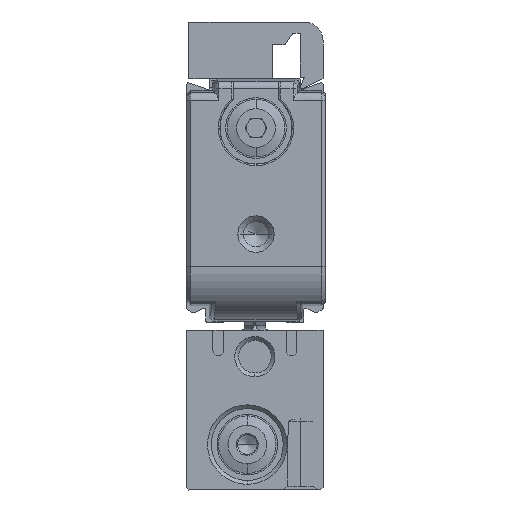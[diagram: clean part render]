
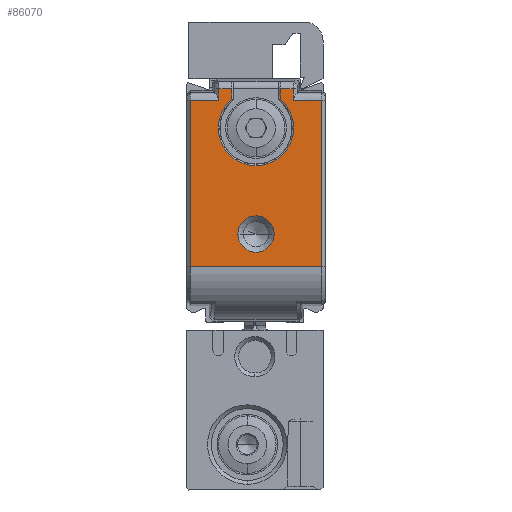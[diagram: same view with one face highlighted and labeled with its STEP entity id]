
A CAD part, left-side view. The second image highlights one B-rep face of the part: STEP entity #86070.
In plain terms, the highlighted planar face has unit normal (-1, 0, 0) as drawn and (0, 0, -1) by its records, which use the part's own axes.
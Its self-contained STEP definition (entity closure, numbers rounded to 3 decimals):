
#68520=CARTESIAN_POINT('',(31.077,22.24,-511.));
#68530=VERTEX_POINT('',#68520);
#68780=CARTESIAN_POINT('',(31.077,35.9,-511.));
#68790=DIRECTION('',(0.,-1.,0.));
#68800=VECTOR('',#68790,1.);
#68810=LINE('',#68780,#68800);
#68820=CARTESIAN_POINT('',(31.077,23.95,-511.));
#68830=VERTEX_POINT('',#68820);
#68840=EDGE_CURVE('',#68830,#68530,#68810,.T.);
#72660=CARTESIAN_POINT('',(7.619,35.8,-511.));
#72670=VERTEX_POINT('',#72660);
#73040=CARTESIAN_POINT('',(29.577,35.8,-511.));
#73050=VERTEX_POINT('',#73040);
#73170=CARTESIAN_POINT('',(18.598,35.8,-511.));
#73180=DIRECTION('',(1.,0.,0.));
#73190=VECTOR('',#73180,1.);
#73200=LINE('',#73170,#73190);
#73210=EDGE_CURVE('',#72670,#73050,#73200,.T.);
#80510=CARTESIAN_POINT('',(29.577,22.24,-511.));
#80520=VERTEX_POINT('',#80510);
#80550=CARTESIAN_POINT('',(29.577,35.9,-511.));
#80560=DIRECTION('',(0.,1.,0.));
#80570=VECTOR('',#80560,1.);
#80580=LINE('',#80550,#80570);
#80590=CARTESIAN_POINT('',(29.577,18.5,-511.));
#80600=VERTEX_POINT('',#80590);
#80610=EDGE_CURVE('',#80600,#80520,#80580,.T.);
#80960=CARTESIAN_POINT('',(29.077,22.24,-511.));
#80970=CARTESIAN_POINT('',(29.494,22.24,-511.));
#80980=CARTESIAN_POINT('',(29.91,22.24,-511.));
#80990=CARTESIAN_POINT('',(30.577,22.24,-511.));
#81000=CARTESIAN_POINT('',(30.827,22.24,-511.));
#81010=CARTESIAN_POINT('',(31.077,22.24,-511.));
#81020=B_SPLINE_CURVE_WITH_KNOTS('',3,(#80960,#80970,#80980,#80990,
#81000,#81010),.UNSPECIFIED.,.F.,.F.,(4,2,4),(38.213,
39.463,40.213),.UNSPECIFIED.);
#81030=EDGE_CURVE('',#80520,#68530,#81020,.T.);
#84900=CARTESIAN_POINT('',(7.619,18.5,
-511.));
#84910=VERTEX_POINT('',#84900);
#84940=CARTESIAN_POINT('',(7.619,35.9,-511.));
#84950=DIRECTION('',(0.,-1.,0.));
#84960=VECTOR('',#84950,1.);
#84970=LINE('',#84940,#84960);
#84980=EDGE_CURVE('',#72670,#84910,#84970,.T.);
#85280=CARTESIAN_POINT('',(16.65,27.15,-511.));
#85290=DIRECTION('',(0.,0.,1.));
#85300=DIRECTION('',(0.,1.,0.));
#85310=AXIS2_PLACEMENT_3D('',#85280,#85290,#85300);
#85320=PLANE('',#85310);
#85330=CARTESIAN_POINT('',(11.9,27.15,-511.));
#85340=DIRECTION('',(0.,0.,1.));
#85350=DIRECTION('',(0.,-1.,0.));
#85360=AXIS2_PLACEMENT_3D('',#85330,#85340,#85350);
#85370=CIRCLE('',#85360,2.4);
#85380=CARTESIAN_POINT('',(11.9,29.55,-511.));
#85390=VERTEX_POINT('',#85380);
#85400=CARTESIAN_POINT('',(11.9,24.75,-511.));
#85410=VERTEX_POINT('',#85400);
#85420=EDGE_CURVE('',#85390,#85410,#85370,.T.);
#85430=ORIENTED_EDGE('',*,*,#85420,.T.);
#85440=EDGE_CURVE('',#85410,#85390,#85370,.T.);
#85450=ORIENTED_EDGE('',*,*,#85440,.T.);
#85460=EDGE_LOOP('',(#85450,#85430));
#85470=FACE_BOUND('',#85460,.T.);
#85480=ORIENTED_EDGE('',*,*,#80610,.F.);
#85490=ORIENTED_EDGE('',*,*,#81030,.F.);
#85500=ORIENTED_EDGE('',*,*,#68840,.T.);
#85510=CARTESIAN_POINT('',(0.15,23.95,-511.));
#85520=DIRECTION('',(-1.,0.,0.));
#85530=VECTOR('',#85520,1.);
#85540=LINE('',#85510,#85530);
#85550=CARTESIAN_POINT('',(29.709,23.95,-511.));
#85560=VERTEX_POINT('',#85550);
#85570=EDGE_CURVE('',#68830,#85560,#85540,.T.);
#85580=ORIENTED_EDGE('',*,*,#85570,.F.);
#85590=CARTESIAN_POINT('',(25.9,27.15,-511.));
#85600=DIRECTION('',(0.,0.,-1.));
#85610=DIRECTION('',(0.,1.,0.));
#85620=AXIS2_PLACEMENT_3D('',#85590,#85600,#85610);
#85630=CIRCLE('',#85620,4.974);
#85640=CARTESIAN_POINT('',(29.709,30.35,-511.));
#85650=VERTEX_POINT('',#85640);
#85660=EDGE_CURVE('',#85560,#85650,#85630,.T.);
#85670=ORIENTED_EDGE('',*,*,#85660,.F.);
#85680=CARTESIAN_POINT('',(0.15,30.35,-511.));
#85690=DIRECTION('',(1.,0.,0.));
#85700=VECTOR('',#85690,1.);
#85710=LINE('',#85680,#85700);
#85720=CARTESIAN_POINT('',(31.077,30.35,-511.));
#85730=VERTEX_POINT('',#85720);
#85740=EDGE_CURVE('',#85650,#85730,#85710,.T.);
#85750=ORIENTED_EDGE('',*,*,#85740,.F.);
#85760=CARTESIAN_POINT('',(31.077,32.06,-511.));
#85770=VERTEX_POINT('',#85760);
#85780=EDGE_CURVE('',#85770,#85730,#68810,.T.);
#85790=ORIENTED_EDGE('',*,*,#85780,.T.);
#85800=CARTESIAN_POINT('',(29.077,32.06,-511.));
#85810=CARTESIAN_POINT('',(29.494,32.06,-511.));
#85820=CARTESIAN_POINT('',(29.91,32.06,-511.));
#85830=CARTESIAN_POINT('',(30.577,32.06,-511.));
#85840=CARTESIAN_POINT('',(30.827,32.06,-511.));
#85850=CARTESIAN_POINT('',(31.077,32.06,-511.));
#85860=B_SPLINE_CURVE_WITH_KNOTS('',3,(#85800,#85810,#85820,#85830,
#85840,#85850),.UNSPECIFIED.,.F.,.F.,(4,2,4),(38.213,
39.463,40.213),.UNSPECIFIED.);
#85870=CARTESIAN_POINT('',(29.577,32.06,-511.));
#85880=VERTEX_POINT('',#85870);
#85890=EDGE_CURVE('',#85880,#85770,#85860,.T.);
#85900=ORIENTED_EDGE('',*,*,#85890,.T.);
#85910=CARTESIAN_POINT('',(29.577,35.9,-511.));
#85920=DIRECTION('',(0.,1.,0.));
#85930=VECTOR('',#85920,1.);
#85940=LINE('',#85910,#85930);
#85950=EDGE_CURVE('',#85880,#73050,#85940,.T.);
#85960=ORIENTED_EDGE('',*,*,#85950,.F.);
#85970=ORIENTED_EDGE('',*,*,#73210,.T.);
#85980=ORIENTED_EDGE('',*,*,#84980,.F.);
#85990=CARTESIAN_POINT('',(18.598,18.5,-511.));
#86000=DIRECTION('',(1.,0.,0.));
#86010=VECTOR('',#86000,1.);
#86020=LINE('',#85990,#86010);
#86030=EDGE_CURVE('',#84910,#80600,#86020,.T.);
#86040=ORIENTED_EDGE('',*,*,#86030,.F.);
#86050=EDGE_LOOP('',(#86040,#85980,#85970,#85960,#85900,#85790,#85750,
#85670,#85580,#85500,#85490,#85480));
#86060=FACE_OUTER_BOUND('',#86050,.T.);
#86070=ADVANCED_FACE('',(#85470,#86060),#85320,.F.);
